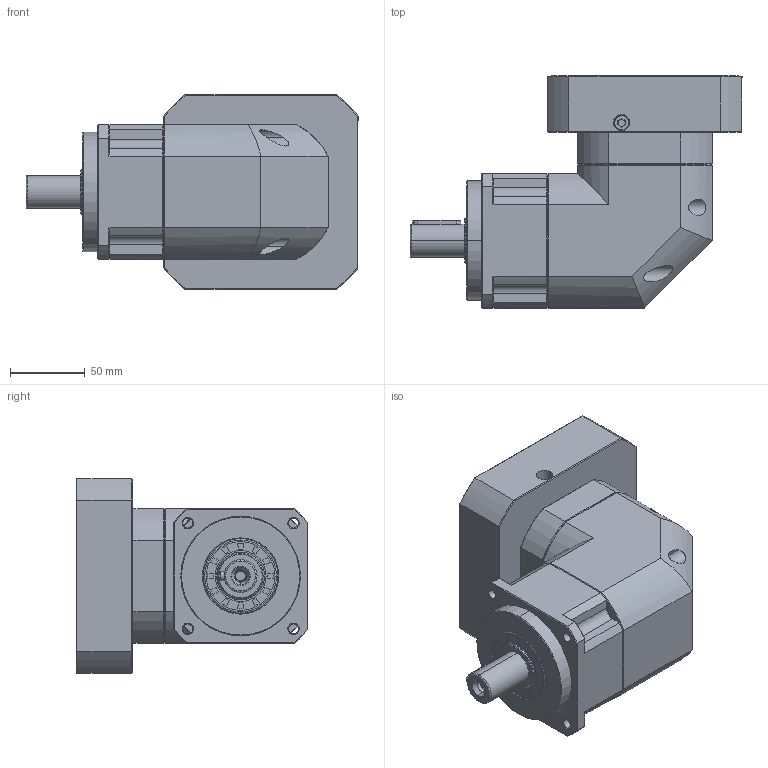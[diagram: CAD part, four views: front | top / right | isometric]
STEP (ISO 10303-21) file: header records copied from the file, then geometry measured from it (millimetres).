
FILE_DESCRIPTION (( 'STEP AP214' ), '1' );
FILE_NAME ('ZPBR090-D22-L1-P1-24-110-130-M8.step', '2024-06-07T18:34:40', ( 'Windows 蚚誧' ), ( 'Organization' ), 'SwSTEP 2.0', 'SolidWorks 2016', '' );
FILE_SCHEMA (( 'AUTOMOTIVE_DESIGN' ));
Length unit declared in the file: millimetre
Products named in the file (1): ZPBR090-D22-L1-P1-24-110-130-M8
Bounding box: 222 x 155 x 130 mm (x, y, z)
Surface area: 166388.3 mm2 (no closed solid volume)
Topology: 0 solids, 32 shells, 1817 faces, 4938 edges, 3177 vertices
Faces by surface type: plane 971, bspline 373, cone 240, cylinder 216, torus 17
Entity records: 93418 total; most frequent: CARTESIAN_POINT 46999, ORIENTED_EDGE 9696, DIRECTION 7533, EDGE_CURVE 4884, LINE 3245, VECTOR 3245, VERTEX_POINT 3144, AXIS2_PLACEMENT_3D 2144
